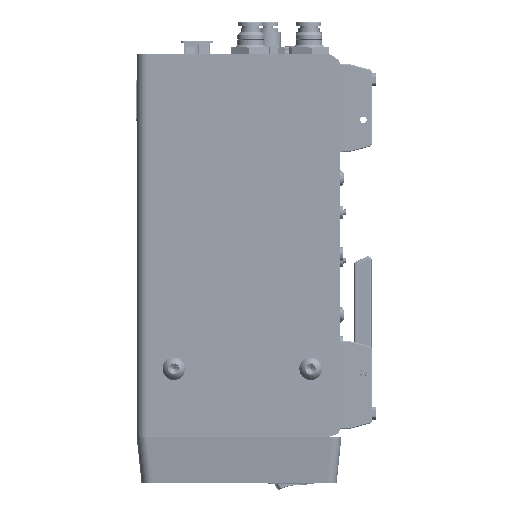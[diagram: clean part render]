
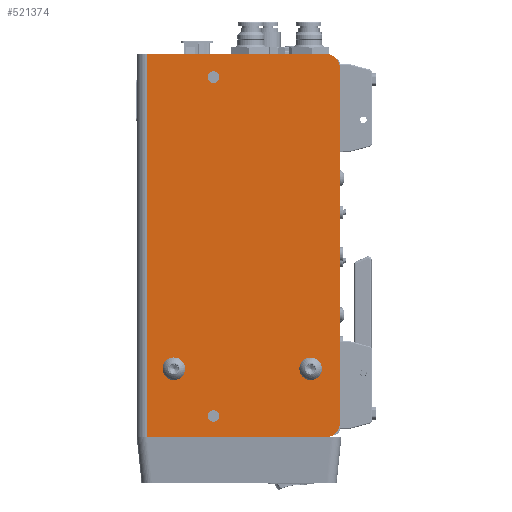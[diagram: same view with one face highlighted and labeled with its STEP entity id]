
A CAD part, left-side view. The second image highlights one B-rep face of the part: STEP entity #521374.
In plain terms, the highlighted planar face has unit normal (-1, 0, 0).
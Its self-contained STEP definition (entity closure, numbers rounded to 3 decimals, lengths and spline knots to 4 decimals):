
#9044 = CARTESIAN_POINT ( 'NONE',  ( -5.0197, -0.063, 3.518 ) ) ;
#11730 = DIRECTION ( 'NONE',  ( 1., 0., 0. ) ) ;
#13852 = FACE_BOUND ( 'NONE', #146400, .T. ) ;
#18358 = ORIENTED_EDGE ( 'NONE', *, *, #377331, .T. ) ;
#27917 = VERTEX_POINT ( 'NONE', #409994 ) ;
#32676 = EDGE_LOOP ( 'NONE', ( #343852, #457084 ) ) ;
#33021 = AXIS2_PLACEMENT_3D ( 'NONE', #138472, #544395, #341463 ) ;
#33178 = ORIENTED_EDGE ( 'NONE', *, *, #226585, .F. ) ;
#40884 = VECTOR ( 'NONE', #251324, 39.3701 ) ;
#42116 = ORIENTED_EDGE ( 'NONE', *, *, #57218, .F. ) ;
#42863 = ORIENTED_EDGE ( 'NONE', *, *, #59150, .F. ) ;
#52031 = DIRECTION ( 'NONE',  ( 1., 0., 0. ) ) ;
#57218 = EDGE_CURVE ( 'NONE', #593469, #27917, #238405, .T. ) ;
#59150 = EDGE_CURVE ( 'NONE', #305094, #424621, #313923, .T. ) ;
#63282 = ORIENTED_EDGE ( 'NONE', *, *, #324631, .T. ) ;
#80942 = DIRECTION ( 'NONE',  ( -1., 0., 0. ) ) ;
#93140 = CARTESIAN_POINT ( 'NONE',  ( -5.0197, 2.968, -2.0621 ) ) ;
#97723 = CIRCLE ( 'NONE', #501451, 0.1719 ) ;
#98702 = AXIS2_PLACEMENT_3D ( 'NONE', #560986, #52031, #308112 ) ;
#99065 = AXIS2_PLACEMENT_3D ( 'NONE', #117119, #423267, #270158 ) ;
#114152 = VERTEX_POINT ( 'NONE', #184212 ) ;
#117119 = CARTESIAN_POINT ( 'NONE',  ( -5.0197, 0.187, -3.234 ) ) ;
#125664 = VERTEX_POINT ( 'NONE', #356971 ) ;
#127845 = EDGE_LOOP ( 'NONE', ( #162945, #386967, #162291, #63282, #127882, #200391 ) ) ;
#127882 = ORIENTED_EDGE ( 'NONE', *, *, #505746, .T. ) ;
#128264 = VERTEX_POINT ( 'NONE', #288787 ) ;
#128873 = CARTESIAN_POINT ( 'NONE',  ( -5.0197, 2.968, -2.234 ) ) ;
#138007 = VERTEX_POINT ( 'NONE', #340858 ) ;
#138472 = CARTESIAN_POINT ( 'NONE',  ( -5.0197, 2.968, -2.234 ) ) ;
#146400 = EDGE_LOOP ( 'NONE', ( #18358, #421759 ) ) ;
#150460 = VECTOR ( 'NONE', #199425, 39.3701 ) ;
#153681 = FACE_OUTER_BOUND ( 'NONE', #127845, .T. ) ;
#156062 = LINE ( 'NONE', #352491, #150460 ) ;
#159472 = EDGE_CURVE ( 'NONE', #125664, #657532, #524548, .T. ) ;
#162291 = ORIENTED_EDGE ( 'NONE', *, *, #159472, .F. ) ;
#162945 = ORIENTED_EDGE ( 'NONE', *, *, #498208, .F. ) ;
#184212 = CARTESIAN_POINT ( 'NONE',  ( -5.0197, 2.3496, -3.097 ) ) ;
#188265 = EDGE_LOOP ( 'NONE', ( #42116, #565320 ) ) ;
#192870 = VERTEX_POINT ( 'NONE', #283398 ) ;
#194500 = EDGE_CURVE ( 'NONE', #348754, #128264, #500939, .T. ) ;
#195471 = AXIS2_PLACEMENT_3D ( 'NONE', #487949, #278405, #537881 ) ;
#199425 = DIRECTION ( 'NONE',  ( 0., 1., 0. ) ) ;
#200391 = ORIENTED_EDGE ( 'NONE', *, *, #194500, .F. ) ;
#217902 = DIRECTION ( 'NONE',  ( 0., 1., 0. ) ) ;
#224067 = CARTESIAN_POINT ( 'NONE',  ( -5.0197, 0.187, 3.268 ) ) ;
#224443 = AXIS2_PLACEMENT_3D ( 'NONE', #251654, #448124, #594528 ) ;
#226080 = CARTESIAN_POINT ( 'NONE',  ( -5.0197, 0.468, -2.234 ) ) ;
#226585 = EDGE_CURVE ( 'NONE', #424621, #305094, #97723, .T. ) ;
#233341 = CARTESIAN_POINT ( 'NONE',  ( -5.0197, 0.468, -2.0621 ) ) ;
#238405 = CIRCLE ( 'NONE', #610270, 0.1719 ) ;
#239363 = AXIS2_PLACEMENT_3D ( 'NONE', #224067, #80942, #330500 ) ;
#240760 = EDGE_LOOP ( 'NONE', ( #42863, #33178 ) ) ;
#246092 = VECTOR ( 'NONE', #311766, 39.3701 ) ;
#251324 = DIRECTION ( 'NONE',  ( 0., 0., 1. ) ) ;
#251654 = CARTESIAN_POINT ( 'NONE',  ( -5.0197, 2.2431, -3.097 ) ) ;
#260056 = FACE_BOUND ( 'NONE', #240760, .T. ) ;
#264536 = CARTESIAN_POINT ( 'NONE',  ( -5.0197, 2.2431, -3.097 ) ) ;
#265557 = CARTESIAN_POINT ( 'NONE',  ( -5.0197, 0.468, -2.234 ) ) ;
#270158 = DIRECTION ( 'NONE',  ( 0., 0., 1. ) ) ;
#275711 = CARTESIAN_POINT ( 'NONE',  ( -5.0197, 2.3496, 3.093 ) ) ;
#276532 = EDGE_CURVE ( 'NONE', #138007, #114152, #297749, .T. ) ;
#278405 = DIRECTION ( 'NONE',  ( 1., 0., 0. ) ) ;
#283398 = CARTESIAN_POINT ( 'NONE',  ( -5.0197, 2.1366, 3.093 ) ) ;
#288787 = CARTESIAN_POINT ( 'NONE',  ( -5.0197, 3.4591, 3.518 ) ) ;
#297749 = CIRCLE ( 'NONE', #467353, 0.1065 ) ;
#298579 = CIRCLE ( 'NONE', #224443, 0.1065 ) ;
#300913 = CIRCLE ( 'NONE', #99065, 0.25 ) ;
#305094 = VERTEX_POINT ( 'NONE', #233341 ) ;
#308112 = DIRECTION ( 'NONE',  ( 0., 1., 0. ) ) ;
#311766 = DIRECTION ( 'NONE',  ( 0., 0., -1. ) ) ;
#313303 = DIRECTION ( 'NONE',  ( -1., 0., 0. ) ) ;
#313923 = CIRCLE ( 'NONE', #409878, 0.1719 ) ;
#324631 = EDGE_CURVE ( 'NONE', #125664, #513256, #515804, .T. ) ;
#330500 = DIRECTION ( 'NONE',  ( 0., 0., 1. ) ) ;
#330532 = LINE ( 'NONE', #433698, #386913 ) ;
#338697 = CARTESIAN_POINT ( 'NONE',  ( -5.0197, 3.4591, -3.484 ) ) ;
#340858 = CARTESIAN_POINT ( 'NONE',  ( -5.0197, 2.1366, -3.097 ) ) ;
#341463 = DIRECTION ( 'NONE',  ( 0., 0., 1. ) ) ;
#343852 = ORIENTED_EDGE ( 'NONE', *, *, #632622, .T. ) ;
#348754 = VERTEX_POINT ( 'NONE', #338697 ) ;
#352491 = CARTESIAN_POINT ( 'NONE',  ( -5.0197, 3.5841, -3.484 ) ) ;
#353124 = EDGE_CURVE ( 'NONE', #27917, #593469, #585808, .T. ) ;
#353414 = FACE_BOUND ( 'NONE', #32676, .T. ) ;
#356971 = CARTESIAN_POINT ( 'NONE',  ( -5.0197, -0.063, 3.268 ) ) ;
#362635 = CARTESIAN_POINT ( 'NONE',  ( -5.0197, 0.187, 3.518 ) ) ;
#363209 = PLANE ( 'NONE',  #394968 ) ;
#377331 = EDGE_CURVE ( 'NONE', #114152, #138007, #298579, .T. ) ;
#386913 = VECTOR ( 'NONE', #440223, 39.3701 ) ;
#386967 = ORIENTED_EDGE ( 'NONE', *, *, #631860, .T. ) ;
#394968 = AXIS2_PLACEMENT_3D ( 'NONE', #469627, #313303, #506435 ) ;
#403326 = FACE_BOUND ( 'NONE', #188265, .T. ) ;
#409878 = AXIS2_PLACEMENT_3D ( 'NONE', #226080, #525630, #429120 ) ;
#409994 = CARTESIAN_POINT ( 'NONE',  ( -5.0197, 2.968, -2.4059 ) ) ;
#414398 = CARTESIAN_POINT ( 'NONE',  ( -5.0197, 0.187, -3.484 ) ) ;
#421759 = ORIENTED_EDGE ( 'NONE', *, *, #276532, .T. ) ;
#423267 = DIRECTION ( 'NONE',  ( -1., 0., 0. ) ) ;
#424621 = VERTEX_POINT ( 'NONE', #653278 ) ;
#429120 = DIRECTION ( 'NONE',  ( 0., 0., 1. ) ) ;
#429340 = CIRCLE ( 'NONE', #98702, 0.1065 ) ;
#433698 = CARTESIAN_POINT ( 'NONE',  ( -5.0197, 3.5841, 3.518 ) ) ;
#440223 = DIRECTION ( 'NONE',  ( 0., 1., 0. ) ) ;
#448124 = DIRECTION ( 'NONE',  ( 1., 0., 0. ) ) ;
#451391 = DIRECTION ( 'NONE',  ( 0., 0., 1. ) ) ;
#457084 = ORIENTED_EDGE ( 'NONE', *, *, #461612, .T. ) ;
#461612 = EDGE_CURVE ( 'NONE', #192870, #642308, #429340, .T. ) ;
#461980 = DIRECTION ( 'NONE',  ( 0., 0., 1. ) ) ;
#467353 = AXIS2_PLACEMENT_3D ( 'NONE', #264536, #11730, #217902 ) ;
#469627 = CARTESIAN_POINT ( 'NONE',  ( -5.0197, 3.5841, 3.518 ) ) ;
#487949 = CARTESIAN_POINT ( 'NONE',  ( -5.0197, 2.2431, 3.093 ) ) ;
#498208 = EDGE_CURVE ( 'NONE', #647736, #348754, #156062, .T. ) ;
#500939 = LINE ( 'NONE', #597498, #40884 ) ;
#501451 = AXIS2_PLACEMENT_3D ( 'NONE', #265557, #628076, #461980 ) ;
#505746 = EDGE_CURVE ( 'NONE', #513256, #128264, #330532, .T. ) ;
#506435 = DIRECTION ( 'NONE',  ( 0., 0., 1. ) ) ;
#513256 = VERTEX_POINT ( 'NONE', #362635 ) ;
#515804 = CIRCLE ( 'NONE', #239363, 0.25 ) ;
#521374 = ADVANCED_FACE ( 'NONE', ( #153681, #403326, #260056, #13852, #353414 ), #363209, .T. ) ;
#524548 = LINE ( 'NONE', #9044, #246092 ) ;
#525630 = DIRECTION ( 'NONE',  ( -1., 0., 0. ) ) ;
#537881 = DIRECTION ( 'NONE',  ( 0., 1., 0. ) ) ;
#544395 = DIRECTION ( 'NONE',  ( -1., 0., 0. ) ) ;
#560986 = CARTESIAN_POINT ( 'NONE',  ( -5.0197, 2.2431, 3.093 ) ) ;
#565320 = ORIENTED_EDGE ( 'NONE', *, *, #353124, .F. ) ;
#577825 = CIRCLE ( 'NONE', #195471, 0.1065 ) ;
#585808 = CIRCLE ( 'NONE', #33021, 0.1719 ) ;
#593469 = VERTEX_POINT ( 'NONE', #93140 ) ;
#594528 = DIRECTION ( 'NONE',  ( 0., 1., 0. ) ) ;
#597498 = CARTESIAN_POINT ( 'NONE',  ( -5.0197, 3.4591, 3.518 ) ) ;
#610270 = AXIS2_PLACEMENT_3D ( 'NONE', #128873, #614178, #451391 ) ;
#614178 = DIRECTION ( 'NONE',  ( -1., 0., 0. ) ) ;
#628076 = DIRECTION ( 'NONE',  ( -1., 0., 0. ) ) ;
#631860 = EDGE_CURVE ( 'NONE', #647736, #657532, #300913, .T. ) ;
#632622 = EDGE_CURVE ( 'NONE', #642308, #192870, #577825, .T. ) ;
#642308 = VERTEX_POINT ( 'NONE', #275711 ) ;
#647736 = VERTEX_POINT ( 'NONE', #414398 ) ;
#653278 = CARTESIAN_POINT ( 'NONE',  ( -5.0197, 0.468, -2.4059 ) ) ;
#657532 = VERTEX_POINT ( 'NONE', #657707 ) ;
#657707 = CARTESIAN_POINT ( 'NONE',  ( -5.0197, -0.063, -3.234 ) ) ;
